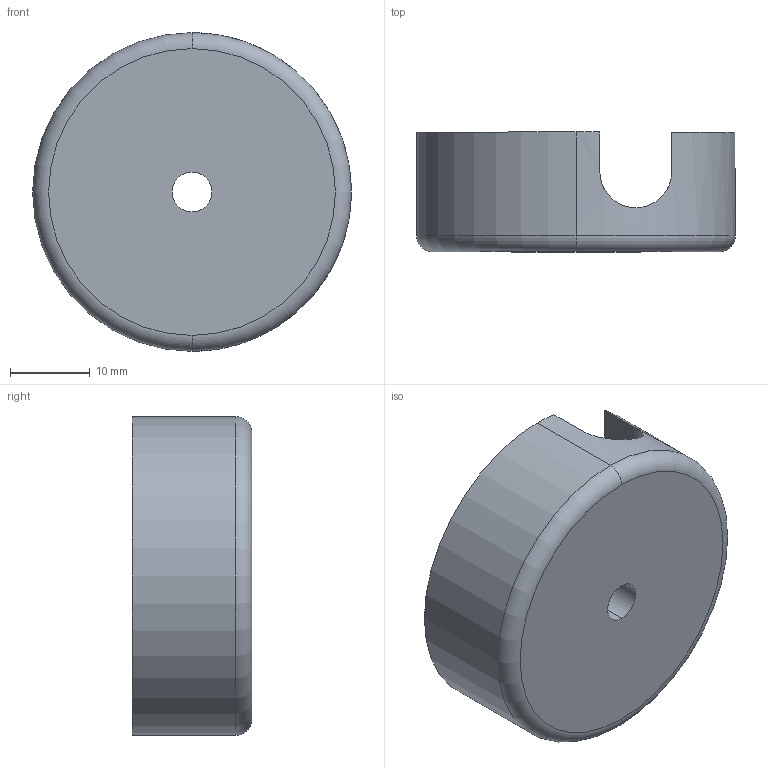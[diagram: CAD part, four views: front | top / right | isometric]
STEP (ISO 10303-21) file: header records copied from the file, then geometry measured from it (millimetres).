
FILE_DESCRIPTION (( 'STEP AP214' ), '1' );
FILE_NAME ('lampe_ikea_01_02_2024_15_44.STEP', '2024-02-01T16:16:36', ( '' ), ( '' ), 'SwSTEP 2.0', 'SolidWorks 2024', '' );
FILE_SCHEMA (( 'AUTOMOTIVE_DESIGN' ));
Length unit declared in the file: millimetre
Products named in the file (1): lampe_ikea_01_02_2024_15_44
Bounding box: 40 x 15 x 40 mm (x, y, z)
Volume: 14527.5 mm3; surface area: 4802.7 mm2
Topology: 1 solids, 1 shells, 21 faces, 53 edges, 34 vertices
Faces by surface type: cylinder 9, plane 7, torus 5
Entity records: 759 total; most frequent: CARTESIAN_POINT 217, DIRECTION 114, ORIENTED_EDGE 106, EDGE_CURVE 53, AXIS2_PLACEMENT_3D 47, VERTEX_POINT 34, CIRCLE 25, EDGE_LOOP 23
